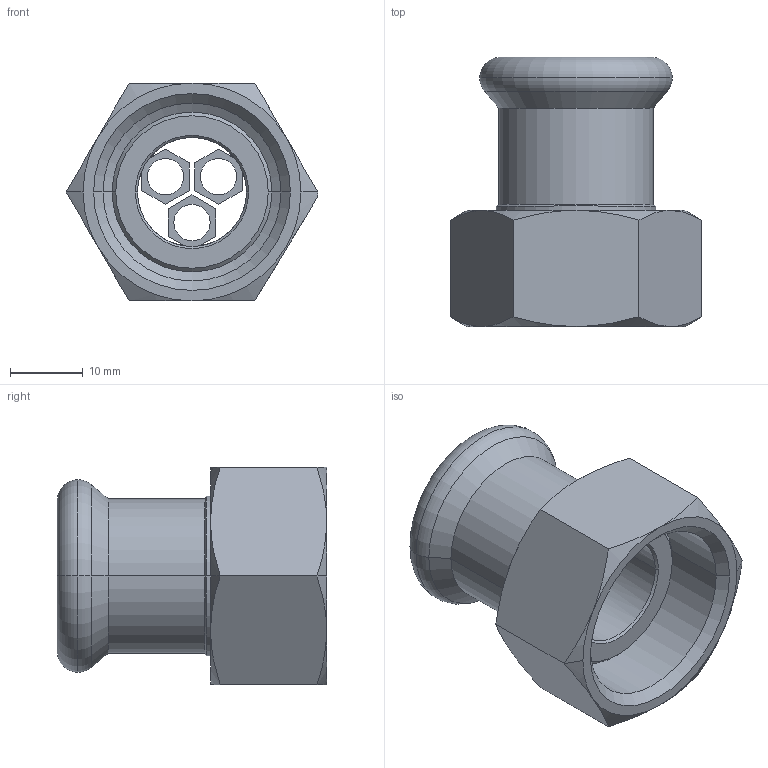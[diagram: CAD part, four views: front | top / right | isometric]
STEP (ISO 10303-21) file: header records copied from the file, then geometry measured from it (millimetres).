
FILE_DESCRIPTION(('OneSpaceDesigner STEP Export'),'2;1');
FILE_NAME('R2704 18xG3-4.stp','2010-06-09T 9:43:50',(''),(''),'OneSpace Designer STEP processor for AP214 (Solid Model)','OneSpace Modeling 15.00A 14-Mar-2007 (C) CoCreate Software GmbH','');
FILE_SCHEMA(('AUTOMOTIVE_DESIGN { 1 0 10303 214 1 1 1 1 }'));
Length unit declared in the file: millimetre
Products named in the file (2): R2704_18xG3-4
Assembly tree (1 placements, depth 2):
  R2704_18xG3-4
    R2704_18xG3-4
Bounding box: 34.64 x 37.1 x 30 mm (x, y, z)
Volume: 9663.7 mm3; surface area: 7768.7 mm2
Topology: 1 solids, 1 shells, 109 faces, 262 edges, 158 vertices
Faces by surface type: plane 38, cone 35, cylinder 28, torus 8
Entity records: 3648 total; most frequent: CARTESIAN_POINT 1408, ORIENTED_EDGE 524, DIRECTION 360, EDGE_CURVE 262, VERTEX_POINT 158, VECTOR 128, LINE 128, EDGE_LOOP 120
